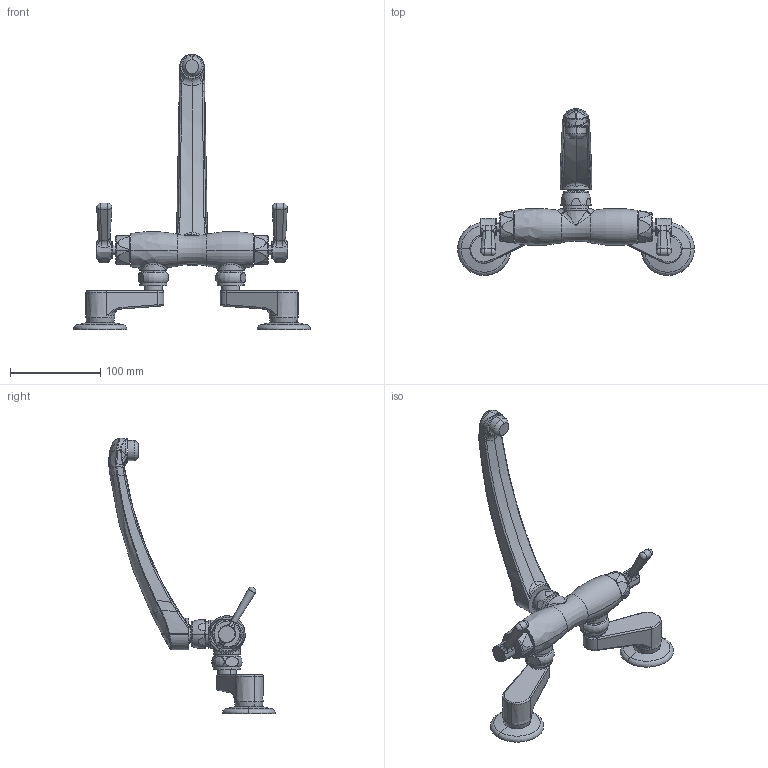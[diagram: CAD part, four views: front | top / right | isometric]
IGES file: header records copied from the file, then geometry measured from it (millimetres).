
Start section:  PTC IGES file: 445-l8e1ab_REV072916.igs
Global section: file name: 445-l8e1ab_REV072916.igs; native system: Creo Parametric by PTC Inc.; preprocessor: 2014500; author: dmisv; organization: Unknown; date: 20160729.141353; units: inch
Bounding box: 261.95 x 184.39 x 305.14 mm (x, y, z)
Surface area: 105113.1 mm2 (no closed solid volume)
Topology: 0 solids, 30 shells, 447 faces, 1079 edges, 642 vertices
Faces by surface type: bspline 297, revolution 150
